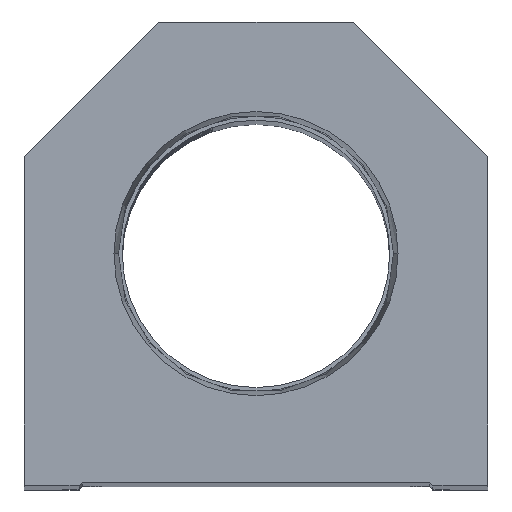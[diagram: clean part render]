
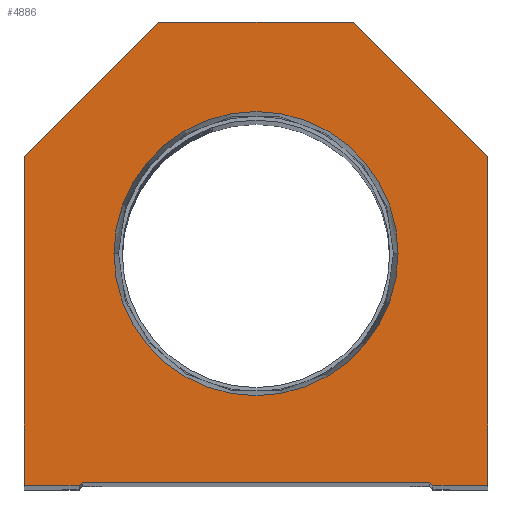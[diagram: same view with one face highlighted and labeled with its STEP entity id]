
A CAD part, top view. The second image highlights one B-rep face of the part: STEP entity #4886.
In plain terms, the highlighted planar face has unit normal (0, 0, 1).
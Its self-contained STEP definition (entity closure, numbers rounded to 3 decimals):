
#42 = CARTESIAN_POINT ( 'NONE',  ( 38.1, 54.1, 0. ) ) ;
#89 = CARTESIAN_POINT ( 'NONE',  ( -28.6, 0., 0. ) ) ;
#268 = CARTESIAN_POINT ( 'NONE',  ( 16., 76.2, 0. ) ) ;
#295 = CARTESIAN_POINT ( 'NONE',  ( -38.1, 54.1, 0. ) ) ;
#447 = DIRECTION ( 'NONE',  ( 0., 1., 0. ) ) ;
#660 = ORIENTED_EDGE ( 'NONE', *, *, #18036, .T. ) ;
#684 = CARTESIAN_POINT ( 'NONE',  ( 23.374, 38.1, 0. ) ) ;
#745 = ORIENTED_EDGE ( 'NONE', *, *, #7336, .T. ) ;
#944 = EDGE_LOOP ( 'NONE', ( #745, #18889, #660, #18230, #5940, #6538, #4427, #12076, #18332, #17373 ) ) ;
#1002 = CARTESIAN_POINT ( 'NONE',  ( 28.6, 0., 0. ) ) ;
#1729 = LINE ( 'NONE', #268, #4671 ) ;
#1758 = DIRECTION ( 'NONE',  ( -0.707, -0.707, 0. ) ) ;
#2100 = VECTOR ( 'NONE', #13647, 1000. ) ;
#2298 = CARTESIAN_POINT ( 'NONE',  ( 0., 0., 0. ) ) ;
#2328 = CARTESIAN_POINT ( 'NONE',  ( -16., 76.2, 0. ) ) ;
#2392 = ORIENTED_EDGE ( 'NONE', *, *, #19559, .F. ) ;
#3039 = CARTESIAN_POINT ( 'NONE',  ( 38.1, 54.1, 0. ) ) ;
#3080 = CARTESIAN_POINT ( 'NONE',  ( -38.1, 54.1, 0. ) ) ;
#3180 = EDGE_CURVE ( 'NONE', #19579, #7587, #1729, .T. ) ;
#3582 = LINE ( 'NONE', #16218, #2100 ) ;
#3724 = CARTESIAN_POINT ( 'NONE',  ( -38.1, 0., 0. ) ) ;
#3803 = DIRECTION ( 'NONE',  ( 1., 0., 0. ) ) ;
#3850 = CARTESIAN_POINT ( 'NONE',  ( -23.374, 38.1, 0. ) ) ;
#3912 = VECTOR ( 'NONE', #447, 1000. ) ;
#4427 = ORIENTED_EDGE ( 'NONE', *, *, #9728, .T. ) ;
#4671 = VECTOR ( 'NONE', #11067, 1000. ) ;
#4886 = ADVANCED_FACE ( 'NONE', ( #19661, #14924 ), #8616, .T. ) ;
#5043 = CARTESIAN_POINT ( 'NONE',  ( 0., 38.1, 0. ) ) ;
#5289 = LINE ( 'NONE', #3724, #12087 ) ;
#5309 = CARTESIAN_POINT ( 'NONE',  ( 16., 76.2, 0. ) ) ;
#5489 = AXIS2_PLACEMENT_3D ( 'NONE', #5628, #19468, #8420 ) ;
#5560 = EDGE_LOOP ( 'NONE', ( #2392, #17825 ) ) ;
#5628 = CARTESIAN_POINT ( 'NONE',  ( 0., 38.1, 0. ) ) ;
#5940 = ORIENTED_EDGE ( 'NONE', *, *, #17502, .T. ) ;
#5944 = EDGE_CURVE ( 'NONE', #10590, #20180, #3582, .T. ) ;
#6318 = DIRECTION ( 'NONE',  ( 0., -1., 0. ) ) ;
#6538 = ORIENTED_EDGE ( 'NONE', *, *, #7795, .T. ) ;
#6671 = DIRECTION ( 'NONE',  ( 1., 0., 0. ) ) ;
#7004 = DIRECTION ( 'NONE',  ( 1., 0., 0. ) ) ;
#7220 = EDGE_CURVE ( 'NONE', #13402, #14680, #9655, .T. ) ;
#7314 = EDGE_CURVE ( 'NONE', #9122, #14193, #5289, .T. ) ;
#7336 = EDGE_CURVE ( 'NONE', #14193, #13402, #19852, .T. ) ;
#7376 = CARTESIAN_POINT ( 'NONE',  ( -29.1, 0., 0. ) ) ;
#7587 = VERTEX_POINT ( 'NONE', #2328 ) ;
#7728 = CARTESIAN_POINT ( 'NONE',  ( -28.6, 0.5, 0. ) ) ;
#7795 = EDGE_CURVE ( 'NONE', #15961, #10378, #8630, .T. ) ;
#7877 = VECTOR ( 'NONE', #1758, 1000. ) ;
#8191 = DIRECTION ( 'NONE',  ( 0.707, 0.707, 0. ) ) ;
#8420 = DIRECTION ( 'NONE',  ( 1., 0., 0. ) ) ;
#8616 = PLANE ( 'NONE',  #15653 ) ;
#8630 = LINE ( 'NONE', #14734, #3912 ) ;
#9122 = VERTEX_POINT ( 'NONE', #3080 ) ;
#9303 = CARTESIAN_POINT ( 'NONE',  ( 29.1, 0., 0. ) ) ;
#9655 = LINE ( 'NONE', #11026, #12415 ) ;
#9728 = EDGE_CURVE ( 'NONE', #10378, #19579, #12878, .T. ) ;
#10341 = LINE ( 'NONE', #13550, #16004 ) ;
#10378 = VERTEX_POINT ( 'NONE', #3039 ) ;
#10590 = VERTEX_POINT ( 'NONE', #19755 ) ;
#10651 = AXIS2_PLACEMENT_3D ( 'NONE', #5043, #19196, #11662 ) ;
#10984 = CIRCLE ( 'NONE', #10651, 23.374 ) ;
#11026 = CARTESIAN_POINT ( 'NONE',  ( -14.55, 14.55, 0. ) ) ;
#11067 = DIRECTION ( 'NONE',  ( -1., 0., 0. ) ) ;
#11662 = DIRECTION ( 'NONE',  ( 1., 0., 0. ) ) ;
#12076 = ORIENTED_EDGE ( 'NONE', *, *, #3180, .T. ) ;
#12087 = VECTOR ( 'NONE', #6318, 1000. ) ;
#12415 = VECTOR ( 'NONE', #8191, 1000. ) ;
#12865 = EDGE_CURVE ( 'NONE', #7587, #9122, #16129, .T. ) ;
#12878 = LINE ( 'NONE', #42, #19163 ) ;
#13380 = DIRECTION ( 'NONE',  ( 0., 0., 1. ) ) ;
#13402 = VERTEX_POINT ( 'NONE', #7376 ) ;
#13465 = CARTESIAN_POINT ( 'NONE',  ( -38.1, 0., 0. ) ) ;
#13550 = CARTESIAN_POINT ( 'NONE',  ( -28.6, 0.5, 0. ) ) ;
#13647 = DIRECTION ( 'NONE',  ( 0.707, -0.707, 0. ) ) ;
#14193 = VERTEX_POINT ( 'NONE', #13465 ) ;
#14680 = VERTEX_POINT ( 'NONE', #7728 ) ;
#14705 = VECTOR ( 'NONE', #20240, 1000. ) ;
#14734 = CARTESIAN_POINT ( 'NONE',  ( 38.1, 0., 0. ) ) ;
#14924 = FACE_OUTER_BOUND ( 'NONE', #944, .T. ) ;
#15256 = CARTESIAN_POINT ( 'NONE',  ( 38.1, 0., 0. ) ) ;
#15399 = VERTEX_POINT ( 'NONE', #684 ) ;
#15433 = EDGE_CURVE ( 'NONE', #18512, #15399, #10984, .T. ) ;
#15653 = AXIS2_PLACEMENT_3D ( 'NONE', #2298, #13380, #6671 ) ;
#15961 = VERTEX_POINT ( 'NONE', #15256 ) ;
#15967 = DIRECTION ( 'NONE',  ( -0.707, 0.707, 0. ) ) ;
#16004 = VECTOR ( 'NONE', #3803, 1000. ) ;
#16129 = LINE ( 'NONE', #295, #7877 ) ;
#16218 = CARTESIAN_POINT ( 'NONE',  ( 14.55, 14.55, 0. ) ) ;
#16299 = LINE ( 'NONE', #1002, #17331 ) ;
#17331 = VECTOR ( 'NONE', #7004, 1000. ) ;
#17373 = ORIENTED_EDGE ( 'NONE', *, *, #7314, .T. ) ;
#17502 = EDGE_CURVE ( 'NONE', #20180, #15961, #16299, .T. ) ;
#17825 = ORIENTED_EDGE ( 'NONE', *, *, #15433, .F. ) ;
#18036 = EDGE_CURVE ( 'NONE', #14680, #10590, #10341, .T. ) ;
#18230 = ORIENTED_EDGE ( 'NONE', *, *, #5944, .T. ) ;
#18332 = ORIENTED_EDGE ( 'NONE', *, *, #12865, .T. ) ;
#18512 = VERTEX_POINT ( 'NONE', #3850 ) ;
#18698 = CIRCLE ( 'NONE', #5489, 23.374 ) ;
#18889 = ORIENTED_EDGE ( 'NONE', *, *, #7220, .T. ) ;
#19163 = VECTOR ( 'NONE', #15967, 1000. ) ;
#19196 = DIRECTION ( 'NONE',  ( 0., 0., 1. ) ) ;
#19468 = DIRECTION ( 'NONE',  ( 0., 0., 1. ) ) ;
#19559 = EDGE_CURVE ( 'NONE', #15399, #18512, #18698, .T. ) ;
#19579 = VERTEX_POINT ( 'NONE', #5309 ) ;
#19661 = FACE_BOUND ( 'NONE', #5560, .T. ) ;
#19755 = CARTESIAN_POINT ( 'NONE',  ( 28.6, 0.5, 0. ) ) ;
#19852 = LINE ( 'NONE', #89, #14705 ) ;
#20180 = VERTEX_POINT ( 'NONE', #9303 ) ;
#20240 = DIRECTION ( 'NONE',  ( 1., 0., 0. ) ) ;
